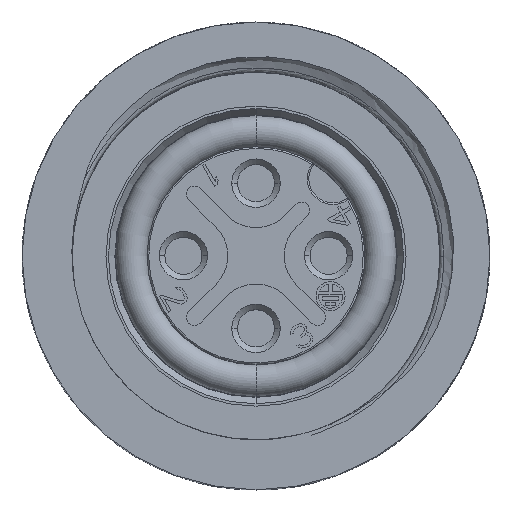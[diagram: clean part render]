
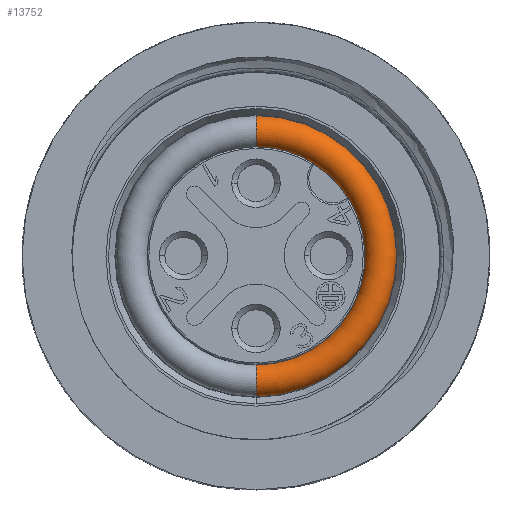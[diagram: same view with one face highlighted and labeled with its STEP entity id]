
A CAD part, top view. The second image highlights one B-rep face of the part: STEP entity #13752.
In plain terms, the highlighted toroidal (fillet/blend) face has major radius 7.72 mm and minor radius 1 mm.
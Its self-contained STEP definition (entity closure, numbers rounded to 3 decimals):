
#634=CARTESIAN_POINT('',(0.,0.,-13.757));
#635=DIRECTION('',(0.,0.,1.));
#636=DIRECTION('',(0.,-1.,0.));
#637=AXIS2_PLACEMENT_3D('',#634,#635,#636);
#665=CARTESIAN_POINT('',(0.,0.,-14.243));
#666=DIRECTION('',(0.,0.,1.));
#667=DIRECTION('',(0.,-1.,0.));
#668=AXIS2_PLACEMENT_3D('',#665,#666,#667);
#678=CARTESIAN_POINT('',(0.,7.72,-14.));
#679=DIRECTION('',(-1.,0.,0.));
#680=DIRECTION('',(0.,-0.97,0.243));
#681=AXIS2_PLACEMENT_3D('',#678,#679,#680);
#683=CARTESIAN_POINT('',(0.,-7.72,-14.));
#684=DIRECTION('',(-1.,0.,0.));
#685=DIRECTION('',(0.,0.97,-0.243));
#686=AXIS2_PLACEMENT_3D('',#683,#684,#685);
#13010=CARTESIAN_POINT('',(0.,6.75,-13.757));
#13011=CARTESIAN_POINT('',(0.,-6.75,-13.757));
#13012=VERTEX_POINT('',#13010);
#13013=VERTEX_POINT('',#13011);
#13014=CARTESIAN_POINT('',(0.,6.75,-14.243));
#13015=CARTESIAN_POINT('',(0.,-6.75,-14.243));
#13016=VERTEX_POINT('',#13014);
#13017=VERTEX_POINT('',#13015);
#13739=CARTESIAN_POINT('',(0.,0.,-14.));
#13740=DIRECTION('',(0.,0.,1.));
#13741=DIRECTION('',(0.,-1.,0.));
#13742=AXIS2_PLACEMENT_3D('',#13739,#13740,#13741);
#13743=TOROIDAL_SURFACE('',#13742,7.72,1.);
#13745=ORIENTED_EDGE('',*,*,#13744,.T.);
#13746=ORIENTED_EDGE('',*,*,#13728,.F.);
#13748=ORIENTED_EDGE('',*,*,#13747,.T.);
#13749=ORIENTED_EDGE('',*,*,#13709,.T.);
#13750=EDGE_LOOP('',(#13745,#13746,#13748,#13749));
#13751=FACE_OUTER_BOUND('',#13750,.F.);
#638=CIRCLE('',#637,6.75);
#669=CIRCLE('',#668,6.75);
#682=CIRCLE('',#681,1.);
#687=CIRCLE('',#686,1.);
#13709=EDGE_CURVE('',#13013,#13012,#638,.T.);
#13728=EDGE_CURVE('',#13017,#13016,#669,.T.);
#13744=EDGE_CURVE('',#13012,#13016,#682,.T.);
#13747=EDGE_CURVE('',#13017,#13013,#687,.T.);
#13752=ADVANCED_FACE('',(#13751),#13743,.T.);
